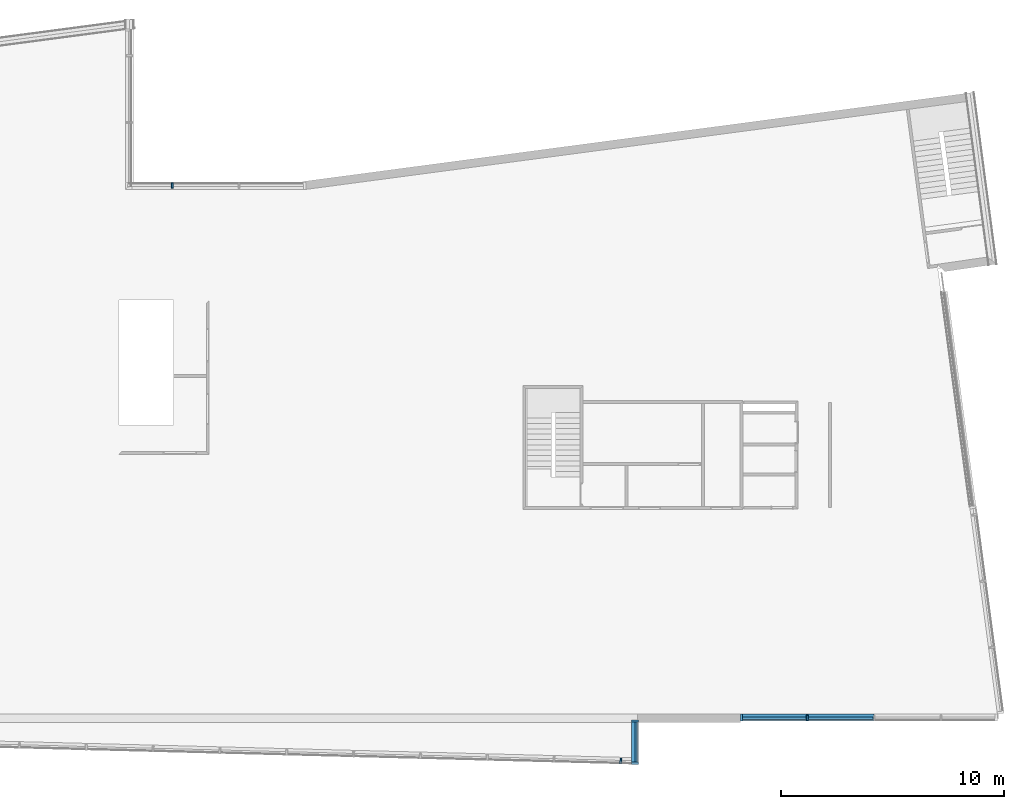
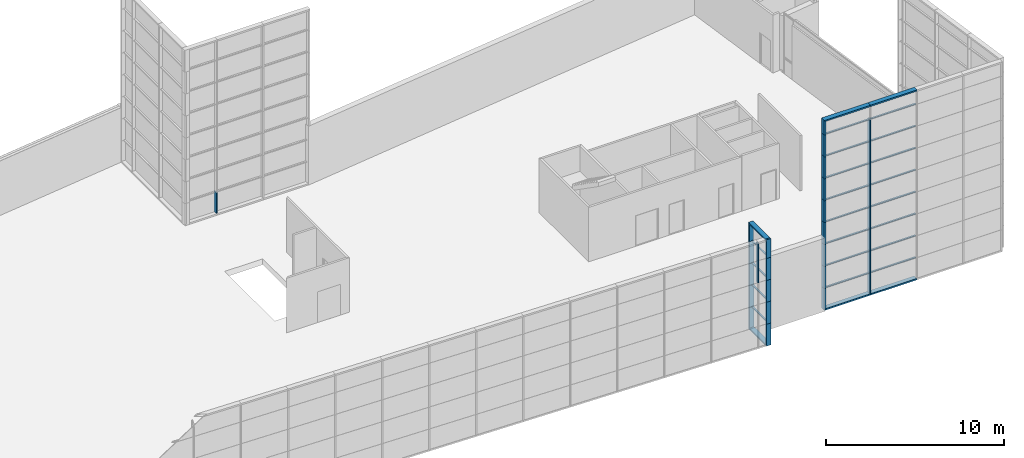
# One storey, part 7 of 27: 56 members, 4 elements without a shape of their own.
"""IFC2X3 building model written with IfcOpenShell, lengths in metres."""

from ifc_helpers import new_model, entity, si_unit, converted_unit, money_unit, direction, frame, origin_with_axes, place, context, subcontext, project, spatial, polyline, outline, extrude, clip, halfspace, material, type_object, element, aggregate, save


model = new_model("IFC2X3")

# Units and contexts
model_context = context("Model", 3, precision=1e-05, world=origin_with_axes(), true_north=direction((0.0, 1.0)))
body_context = subcontext(model_context, "Body", "Model", "MODEL_VIEW")
ifc_project = project(units=[si_unit("LENGTHUNIT", "METRE"), si_unit("AREAUNIT", "SQUARE_METRE"), si_unit("VOLUMEUNIT", "CUBIC_METRE"), converted_unit("PLANEANGLEUNIT", "DEGREE", entity("IfcPlaneAngleMeasure", 0.0174532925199), si_unit("PLANEANGLEUNIT", "RADIAN"), dimensions=[0, 0, 0, 0, 0, 0, 0]), si_unit("SOLIDANGLEUNIT", "STERADIAN"), money_unit("EUR"), converted_unit("TIMEUNIT", "Year", entity("IfcTimeMeasure", 31556926.0), si_unit("TIMEUNIT", "SECOND"), dimensions=[0, 0, 0, 0, 0, 0, 0]), si_unit("MASSUNIT", "GRAM"), si_unit("THERMODYNAMICTEMPERATUREUNIT", "DEGREE_CELSIUS"), si_unit("LUMINOUSINTENSITYUNIT", "LUMEN")], contexts=[model_context])

# Site, building, storey
site_placement = place(None, origin_with_axes())
site = spatial("IfcSite", under=ifc_project, at=site_placement, Name="Undefined", CompositionType="ELEMENT")
building_placement = place(site_placement, origin_with_axes())
building = spatial("IfcBuilding", under=site, at=building_placement, Name="Undefined", CompositionType="ELEMENT")
storey_placement = place(building_placement, frame((0.0, 0.0, 5.4), z_axis=(0.0, 0.0, 1.0), x_axis=(1.0, 0.0, 0.0)))
storey = spatial("IfcBuildingStorey", under=building, at=storey_placement, Name="R+1", CompositionType="ELEMENT", Elevation=5.4)

# Curtain wall, members
curtain_wall_type = type_object("IfcCurtainWallType", Name="Type de mur-rideau", PredefinedType="NOTDEFINED")
curtain_wall_1_placement = place(storey_placement, frame((52.2244318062, -1.23226876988, -0.55), z_axis=(0.0, 0.0, 1.0), x_axis=(1.0, 0.0, 0.0)))
curtain_wall_1 = element("IfcCurtainWall", 1, at=curtain_wall_1_placement, inside=storey, type_object=curtain_wall_type, Name="CurtainWall_01", ObjectType="CURTAIN WALL")
ifc_material = material(Name="25 % 359672764")
member_type_1 = type_object("IfcMemberType", Name="Cadre 100 x 300", PredefinedType="NOTDEFINED")
member_1_placement = place(curtain_wall_1_placement, frame((9.76007754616e-08, 0.975691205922, 4.5), z_axis=(0.0, 0.0, 1.0), x_axis=(-1.00032442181e-07, -1.0, 0.0)))
member_1 = element("IfcMember", 2, at=member_1_placement, type_object=member_type_1, material=ifc_material, Name="Frame-Bnd-565", context=body_context, shape_type="SweptSolid", body=[
    extrude(outline(polyline([(-0.250000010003, -0.0999999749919), (0.0499999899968, -0.100000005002), (0.05, -5.00162211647e-09), (-0.25, 2.50081105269e-08), (-0.250000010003, -0.0999999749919)])), frame((0.0, 0.0, 0.0), z_axis=(0.0, 0.0, 1.0), x_axis=(-1.00032442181e-07, 1.0, 0.0)), (0.0, 0.0, 1.0), 1.5),
])
member_2_placement = place(curtain_wall_1_placement, frame((9.76007754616e-08, 0.975691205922, 3.0), z_axis=(0.0, 0.0, 1.0), x_axis=(-1.00032442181e-07, -1.0, 0.0)))
member_2 = element("IfcMember", 3, at=member_2_placement, type_object=member_type_1, material=ifc_material, Name="Frame-Bnd-565", context=body_context, shape_type="SweptSolid", body=[
    extrude(outline(polyline([(-0.250000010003, -0.0999999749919), (0.0499999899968, -0.100000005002), (0.05, -5.00162211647e-09), (-0.25, 2.50081105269e-08), (-0.250000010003, -0.0999999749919)])), frame((0.0, 0.0, 0.0), z_axis=(0.0, 0.0, 1.0), x_axis=(-1.00032442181e-07, 1.0, 0.0)), (0.0, 0.0, 1.0), 1.5),
])
member_3_placement = place(curtain_wall_1_placement, frame((9.76007754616e-08, 0.975691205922, 1.5), z_axis=(0.0, 0.0, 1.0), x_axis=(-1.00032442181e-07, -1.0, 0.0)))
member_3 = element("IfcMember", 4, at=member_3_placement, type_object=member_type_1, material=ifc_material, Name="Frame-Bnd-565", context=body_context, shape_type="SweptSolid", body=[
    extrude(outline(polyline([(-0.250000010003, -0.0999999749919), (0.0499999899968, -0.100000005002), (0.05, -5.00162211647e-09), (-0.25, 2.50081105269e-08), (-0.250000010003, -0.0999999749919)])), frame((0.0, 0.0, 0.0), z_axis=(0.0, 0.0, 1.0), x_axis=(-1.00032442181e-07, 1.0, 0.0)), (0.0, 0.0, 1.0), 1.5),
])
member_4_placement = place(curtain_wall_1_placement, frame((9.76007754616e-08, 0.975691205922, 0.0), z_axis=(0.0, 0.0, 1.0), x_axis=(-1.00032442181e-07, -1.0, 0.0)))
member_4 = element("IfcMember", 5, at=member_4_placement, type_object=member_type_1, material=ifc_material, Name="Frame-Bnd-565", context=body_context, shape_type="Clipping", body=[
    clip(extrude(outline(polyline([(-0.250000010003, -0.0999999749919), (0.0499999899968, -0.100000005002), (0.05, -5.00162211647e-09), (-0.25, 2.50081105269e-08), (-0.250000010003, -0.0999999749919)])), frame((0.0, 0.0, 0.0), z_axis=(0.0, 0.0, 1.0), x_axis=(-1.00032442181e-07, 1.0, 0.0)), (0.0, 0.0, 1.0), 1.5), halfspace(frame((0.0, 0.0, 0.0), z_axis=(-0.707106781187, 0.0, 0.707106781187), x_axis=(0.0, -1.0, 0.0)), True)),
])
member_5_placement = place(curtain_wall_1_placement, frame((-9.76007754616e-08, -0.975691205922, 0.0), z_axis=(1.00032443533e-07, 1.0, 0.0), x_axis=(0.0, 0.0, 1.0)))
member_5 = element("IfcMember", 6, at=member_5_placement, type_object=member_type_1, material=ifc_material, Name="Frame-Bnd-565", context=body_context, shape_type="Clipping", body=[
    clip(extrude(outline(polyline([(-0.25, -0.1), (0.05, -0.1), (0.05, 0.0), (-0.25, 0.0), (-0.25, -0.1)])), frame((0.0, 0.0, 0.05), z_axis=(0.0, 0.0, 1.0), x_axis=(0.0, 1.0, 0.0)), (0.0, 0.0, 1.0), 1.90138241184), halfspace(frame((0.975691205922, 0.0, 0.975691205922), z_axis=(-0.707106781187, 0.0, -0.707106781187), x_axis=(0.0, 1.0, 0.0)), True)),
])
member_6_placement = place(curtain_wall_1_placement, frame((9.76007754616e-08, 0.975691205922, 6.0), z_axis=(0.0, -6.56820518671e-08, 1.0), x_axis=(-1.00032442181e-07, -1.0, -6.56820518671e-08)))
member_6 = element("IfcMember", 7, at=member_6_placement, type_object=member_type_1, material=ifc_material, Name="Frame-Bnd-623", context=body_context, shape_type="Clipping", body=[
    clip(extrude(outline(polyline([(-0.250000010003, -0.0999999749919), (0.0499999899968, -0.100000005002), (0.05, -5.00162211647e-09), (-0.25, 2.50081105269e-08), (-0.250000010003, -0.0999999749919)])), frame((0.0, 0.0, 0.0), z_axis=(0.0, 0.0, 1.0), x_axis=(-1.00032442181e-07, 1.0, 0.0)), (0.0, 0.0, 1.0), 1.275), halfspace(frame((0.6375, 0.0, 0.637500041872), z_axis=(-0.707106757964, 0.0, -0.707106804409), x_axis=(0.0, 1.0, 0.0)), True)),
])
member_7_placement = place(curtain_wall_1_placement, frame((9.76007612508e-08, 0.975691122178, 7.275), z_axis=(-1.00032440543e-07, -1.0, 0.0), x_axis=(0.0, 0.0, -1.0)))
member_7 = element("IfcMember", 8, at=member_7_placement, type_object=member_type_1, material=ifc_material, Name="Frame-Bnd-666", context=body_context, shape_type="Clipping", body=[
    clip(extrude(outline(polyline([(0.25, 0.1), (-0.05, 0.1), (-0.05, 0.0), (0.25, 0.0), (0.25, 0.1)])), frame((0.0, 0.0, 0.0), z_axis=(0.0, 0.0, 1.0), x_axis=(0.0, -1.0, 0.0)), (0.0, 0.0, 1.0), 1.9013823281), halfspace(frame((0.0, 0.0, 0.0), z_axis=(-0.707106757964, 0.0, 0.707106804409), x_axis=(0.0, -1.0, 0.0)), True)),
])

curtain_wall_2_placement = place(storey_placement, frame((58.35, -0.25, -1.0), z_axis=(0.0, 0.0, 1.0), x_axis=(1.0, 0.0, 0.0)))
curtain_wall_2 = element("IfcCurtainWall", 9, at=curtain_wall_2_placement, inside=storey, type_object=curtain_wall_type, Name="CurtainWall_01", ObjectType="CURTAIN WALL")
member_8_placement = place(curtain_wall_2_placement, frame((-1.5, 0.0, 0.0), z_axis=(1.0, 0.0, 0.0), x_axis=(0.0, 0.0, 1.0)))
member_8 = element("IfcMember", 10, at=member_8_placement, type_object=member_type_1, material=ifc_material, Name="Frame-Bnd-832", context=body_context, shape_type="Clipping", body=[
    clip(extrude(outline(polyline([(-0.25, -0.1), (0.05, -0.1), (0.05, 0.0), (-0.25, 0.0), (-0.25, -0.1)])), frame((0.0, 0.0, 0.0), z_axis=(0.0, 0.0, 1.0), x_axis=(0.0, 1.0, 0.0)), (0.0, 0.0, 1.0), 3.0), halfspace(frame((0.0, 0.0, 0.0), z_axis=(-0.707106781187, 0.0, 0.707106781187), x_axis=(0.0, -1.0, 0.0)), True)),
])
member_9_placement = place(curtain_wall_2_placement, frame((-1.5, 0.0, 0.0), z_axis=(0.0, 0.0, 1.0), x_axis=(-1.0, 0.0, 0.0)))
member_9 = element("IfcMember", 11, at=member_9_placement, type_object=member_type_1, material=ifc_material, Name="Frame-Bnd-832", context=body_context, shape_type="Clipping", body=[
    clip(extrude(outline(polyline([(0.0, 0.25), (0.0, -0.05), (0.1, -0.05), (0.1, 0.25), (0.0, 0.25)])), frame((0.0, 0.0, 0.0), z_axis=(0.0, 0.0, 1.0), x_axis=(-1.0, 0.0, 0.0)), (0.0, 0.0, 1.0), 1.5), halfspace(frame((0.0, 0.0, 0.0), z_axis=(0.707106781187, 0.0, 0.707106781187), x_axis=(0.0, -1.0, 0.0)), True)),
])
member_10_placement = place(curtain_wall_2_placement, frame((1.5, 0.0, 0.0), z_axis=(1.0, 0.0, 0.0), x_axis=(0.0, 0.0, 1.0)))
member_10 = element("IfcMember", 12, at=member_10_placement, type_object=member_type_1, material=ifc_material, Name="Frame-Bnd-832", context=body_context, shape_type="SweptSolid", body=[
    extrude(outline(polyline([(-0.25, -0.1), (0.05, -0.1), (0.05, 0.0), (-0.25, 0.0), (-0.25, -0.1)])), frame((0.0, 0.0, 0.0), z_axis=(0.0, 0.0, 1.0), x_axis=(0.0, 1.0, 0.0)), (0.0, 0.0, 1.0), 3.0),
])
member_11_placement = place(curtain_wall_2_placement, frame((-1.5, 0.0, 1.5), z_axis=(0.0, 0.0, 1.0), x_axis=(-1.0, 0.0, 0.0)))
member_11 = element("IfcMember", 13, at=member_11_placement, type_object=member_type_1, material=ifc_material, Name="Frame-Bnd-832", context=body_context, shape_type="SweptSolid", body=[
    extrude(outline(polyline([(0.0, 0.25), (0.0, -0.05), (0.1, -0.05), (0.1, 0.25), (0.0, 0.25)])), frame((0.0, 0.0, 0.0), z_axis=(0.0, 0.0, 1.0), x_axis=(-1.0, 0.0, 0.0)), (0.0, 0.0, 1.0), 1.5),
])
member_12_placement = place(curtain_wall_2_placement, frame((-1.5, 0.0, 3.0), z_axis=(0.0, 0.0, 1.0), x_axis=(-1.0, 0.0, 0.0)))
member_12 = element("IfcMember", 14, at=member_12_placement, type_object=member_type_1, material=ifc_material, Name="Frame-Bnd-832", context=body_context, shape_type="SweptSolid", body=[
    extrude(outline(polyline([(0.0, 0.25), (0.0, -0.05), (0.1, -0.05), (0.1, 0.25), (0.0, 0.25)])), frame((0.0, 0.0, 0.0), z_axis=(0.0, 0.0, 1.0), x_axis=(-1.0, 0.0, 0.0)), (0.0, 0.0, 1.0), 1.5),
])
member_13_placement = place(curtain_wall_2_placement, frame((-1.5, 0.0, 4.5), z_axis=(0.0, 0.0, 1.0), x_axis=(-1.0, 0.0, 0.0)))
member_13 = element("IfcMember", 15, at=member_13_placement, type_object=member_type_1, material=ifc_material, Name="Frame-Bnd-832", context=body_context, shape_type="SweptSolid", body=[
    extrude(outline(polyline([(0.0, 0.25), (0.0, -0.05), (0.1, -0.05), (0.1, 0.25), (0.0, 0.25)])), frame((0.0, 0.0, 0.0), z_axis=(0.0, 0.0, 1.0), x_axis=(-1.0, 0.0, 0.0)), (0.0, 0.0, 1.0), 1.5),
])
member_14_placement = place(curtain_wall_2_placement, frame((-1.5, 0.0, 6.0), z_axis=(0.0, 0.0, 1.0), x_axis=(-1.0, 0.0, 0.0)))
member_14 = element("IfcMember", 16, at=member_14_placement, type_object=member_type_1, material=ifc_material, Name="Frame-Bnd-832", context=body_context, shape_type="SweptSolid", body=[
    extrude(outline(polyline([(0.0, 0.25), (0.0, -0.05), (0.1, -0.05), (0.1, 0.25), (0.0, 0.25)])), frame((0.0, 0.0, 0.0), z_axis=(0.0, 0.0, 1.0), x_axis=(-1.0, 0.0, 0.0)), (0.0, 0.0, 1.0), 1.5),
])
member_15_placement = place(curtain_wall_2_placement, frame((-1.5, 0.0, 7.5), z_axis=(0.0, 0.0, 1.0), x_axis=(-1.0, 0.0, 0.0)))
member_15 = element("IfcMember", 17, at=member_15_placement, type_object=member_type_1, material=ifc_material, Name="Frame-Bnd-832", context=body_context, shape_type="SweptSolid", body=[
    extrude(outline(polyline([(0.0, 0.25), (0.0, -0.05), (0.1, -0.05), (0.1, 0.25), (0.0, 0.25)])), frame((0.0, 0.0, 0.0), z_axis=(0.0, 0.0, 1.0), x_axis=(-1.0, 0.0, 0.0)), (0.0, 0.0, 1.0), 1.5),
])
member_16_placement = place(curtain_wall_2_placement, frame((-1.5, 0.0, 9.0), z_axis=(0.0, 0.0, 1.0), x_axis=(-1.0, 0.0, 0.0)))
member_16 = element("IfcMember", 18, at=member_16_placement, type_object=member_type_1, material=ifc_material, Name="Frame-Bnd-832", context=body_context, shape_type="SweptSolid", body=[
    extrude(outline(polyline([(0.0, 0.25), (0.0, -0.05), (0.1, -0.05), (0.1, 0.25), (0.0, 0.25)])), frame((0.0, 0.0, 0.0), z_axis=(0.0, 0.0, 1.0), x_axis=(-1.0, 0.0, 0.0)), (0.0, 0.0, 1.0), 1.5),
])
member_17_placement = place(curtain_wall_2_placement, frame((-1.5, 0.0, 10.5), z_axis=(0.0, 0.0, 1.0), x_axis=(-1.0, 0.0, 0.0)))
member_17 = element("IfcMember", 19, at=member_17_placement, type_object=member_type_1, material=ifc_material, Name="Frame-Bnd-832", context=body_context, shape_type="SweptSolid", body=[
    extrude(outline(polyline([(0.0, 0.25), (0.0, -0.05), (0.1, -0.05), (0.1, 0.25), (0.0, 0.25)])), frame((0.0, 0.0, 0.0), z_axis=(0.0, 0.0, 1.0), x_axis=(-1.0, 0.0, 0.0)), (0.0, 0.0, 1.0), 1.5),
])
member_18_placement = place(curtain_wall_2_placement, frame((-1.5, 0.0, 12.0), z_axis=(0.0, 0.0, 1.0), x_axis=(-1.0, 0.0, 0.0)))
member_18 = element("IfcMember", 20, at=member_18_placement, type_object=member_type_1, material=ifc_material, Name="Frame-Bnd-903", context=body_context, shape_type="Clipping", body=[
    clip(extrude(outline(polyline([(0.0, 0.25), (0.0, -0.05), (0.1, -0.05), (0.1, 0.25), (0.0, 0.25)])), frame((0.0, 0.0, 0.0), z_axis=(0.0, 0.0, 1.0), x_axis=(-1.0, 0.0, 0.0)), (0.0, 0.0, 1.0), 1.00000002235), halfspace(frame((-0.500000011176, 0.0, 0.500000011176), z_axis=(0.707106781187, 0.0, -0.707106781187), x_axis=(0.0, 1.0, 0.0)), True)),
])
member_19_placement = place(curtain_wall_2_placement, frame((1.5, 0.0, 13.0000000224), z_axis=(-1.0, 0.0, 0.0), x_axis=(0.0, 0.0, -1.0)))
member_19 = element("IfcMember", 21, at=member_19_placement, type_object=member_type_1, material=ifc_material, Name="Frame-Bnd-904", context=body_context, shape_type="Clipping", body=[
    clip(extrude(outline(polyline([(0.25, 0.1), (-0.05, 0.1), (-0.05, 0.0), (0.25, 0.0), (0.25, 0.1)])), frame((0.0, 0.0, 0.0), z_axis=(0.0, 0.0, 1.0), x_axis=(0.0, -1.0, 0.0)), (0.0, 0.0, 1.0), 3.0), halfspace(frame((1.5, 0.0, 1.5), z_axis=(-0.707106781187, 0.0, -0.707106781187), x_axis=(0.0, 1.0, 0.0)), True)),
])
member_20_placement = place(curtain_wall_2_placement, frame((4.5, 0.0, 13.0000000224), z_axis=(-1.0, 0.0, 0.0), x_axis=(0.0, 0.0, -1.0)))
member_20 = element("IfcMember", 22, at=member_20_placement, type_object=member_type_1, material=ifc_material, Name="Frame-Bnd-905", context=body_context, shape_type="SweptSolid", body=[
    extrude(outline(polyline([(0.25, 0.1), (-0.05, 0.1), (-0.05, 0.0), (0.25, 0.0), (0.25, 0.1)])), frame((0.0, 0.0, 0.0), z_axis=(0.0, 0.0, 1.0), x_axis=(0.0, -1.0, 0.0)), (0.0, 0.0, 1.0), 3.0),
])
member_type_2 = type_object("IfcMemberType", Name="Montant 80 x 250", PredefinedType="NOTDEFINED")
member_21_placement = place(curtain_wall_2_placement, frame((1.5, 0.0, 0.0), z_axis=(0.0, 0.0, 1.0), x_axis=(-1.0, 0.0, 0.0)))
member_21 = element("IfcMember", 23, at=member_21_placement, type_object=member_type_2, material=ifc_material, Name="Frame-Mll-300", context=body_context, shape_type="SweptSolid", body=[
    extrude(outline(polyline([(-0.04, 0.2), (-0.04, -0.05), (0.04, -0.05), (0.04, 0.2), (-0.04, 0.2)])), frame((0.0, 0.0, 0.1), z_axis=(0.0, 0.0, 1.0), x_axis=(-1.0, 0.0, 0.0)), (0.0, 0.0, 1.0), 1.4),
])
member_22_placement = place(curtain_wall_2_placement, frame((1.5, 0.0, 1.5), z_axis=(0.0, 0.0, 1.0), x_axis=(-1.0, 0.0, 0.0)))
member_22 = element("IfcMember", 24, at=member_22_placement, type_object=member_type_2, material=ifc_material, Name="Frame-Mll-300", context=body_context, shape_type="SweptSolid", body=[
    extrude(outline(polyline([(-0.04, 0.2), (-0.04, -0.05), (0.04, -0.05), (0.04, 0.2), (-0.04, 0.2)])), frame((0.0, 0.0, 0.0), z_axis=(0.0, 0.0, 1.0), x_axis=(-1.0, 0.0, 0.0)), (0.0, 0.0, 1.0), 1.5),
])
member_23_placement = place(curtain_wall_2_placement, frame((1.5, 0.0, 3.0), z_axis=(0.0, 0.0, 1.0), x_axis=(-1.0, 0.0, 0.0)))
member_23 = element("IfcMember", 25, at=member_23_placement, type_object=member_type_2, material=ifc_material, Name="Frame-Mll-300", context=body_context, shape_type="SweptSolid", body=[
    extrude(outline(polyline([(-0.04, 0.2), (-0.04, -0.05), (0.04, -0.05), (0.04, 0.2), (-0.04, 0.2)])), frame((0.0, 0.0, 0.0), z_axis=(0.0, 0.0, 1.0), x_axis=(-1.0, 0.0, 0.0)), (0.0, 0.0, 1.0), 1.5),
])
member_24_placement = place(curtain_wall_2_placement, frame((1.5, 0.0, 4.5), z_axis=(0.0, 0.0, 1.0), x_axis=(-1.0, 0.0, 0.0)))
member_24 = element("IfcMember", 26, at=member_24_placement, type_object=member_type_2, material=ifc_material, Name="Frame-Mll-300", context=body_context, shape_type="SweptSolid", body=[
    extrude(outline(polyline([(-0.04, 0.2), (-0.04, -0.05), (0.04, -0.05), (0.04, 0.2), (-0.04, 0.2)])), frame((0.0, 0.0, 0.0), z_axis=(0.0, 0.0, 1.0), x_axis=(-1.0, 0.0, 0.0)), (0.0, 0.0, 1.0), 1.5),
])
member_25_placement = place(curtain_wall_2_placement, frame((1.5, 0.0, 6.0), z_axis=(0.0, 0.0, 1.0), x_axis=(-1.0, 0.0, 0.0)))
member_25 = element("IfcMember", 27, at=member_25_placement, type_object=member_type_2, material=ifc_material, Name="Frame-Mll-300", context=body_context, shape_type="SweptSolid", body=[
    extrude(outline(polyline([(-0.04, 0.2), (-0.04, -0.05), (0.04, -0.05), (0.04, 0.2), (-0.04, 0.2)])), frame((0.0, 0.0, 0.0), z_axis=(0.0, 0.0, 1.0), x_axis=(-1.0, 0.0, 0.0)), (0.0, 0.0, 1.0), 1.5),
])
member_26_placement = place(curtain_wall_2_placement, frame((1.5, 0.0, 7.5), z_axis=(0.0, 0.0, 1.0), x_axis=(-1.0, 0.0, 0.0)))
member_26 = element("IfcMember", 28, at=member_26_placement, type_object=member_type_2, material=ifc_material, Name="Frame-Mll-300", context=body_context, shape_type="SweptSolid", body=[
    extrude(outline(polyline([(-0.04, 0.2), (-0.04, -0.05), (0.04, -0.05), (0.04, 0.2), (-0.04, 0.2)])), frame((0.0, 0.0, 0.0), z_axis=(0.0, 0.0, 1.0), x_axis=(-1.0, 0.0, 0.0)), (0.0, 0.0, 1.0), 1.5),
])
member_27_placement = place(curtain_wall_2_placement, frame((1.5, 0.0, 9.0), z_axis=(0.0, 0.0, 1.0), x_axis=(-1.0, 0.0, 0.0)))
member_27 = element("IfcMember", 29, at=member_27_placement, type_object=member_type_2, material=ifc_material, Name="Frame-Mll-300", context=body_context, shape_type="SweptSolid", body=[
    extrude(outline(polyline([(-0.04, 0.2), (-0.04, -0.05), (0.04, -0.05), (0.04, 0.2), (-0.04, 0.2)])), frame((0.0, 0.0, 0.0), z_axis=(0.0, 0.0, 1.0), x_axis=(-1.0, 0.0, 0.0)), (0.0, 0.0, 1.0), 1.5),
])
member_28_placement = place(curtain_wall_2_placement, frame((1.5, 0.0, 10.5), z_axis=(0.0, 0.0, 1.0), x_axis=(-1.0, 0.0, 0.0)))
member_28 = element("IfcMember", 30, at=member_28_placement, type_object=member_type_2, material=ifc_material, Name="Frame-Mll-300", context=body_context, shape_type="SweptSolid", body=[
    extrude(outline(polyline([(-0.04, 0.2), (-0.04, -0.05), (0.04, -0.05), (0.04, 0.2), (-0.04, 0.2)])), frame((0.0, 0.0, 0.0), z_axis=(0.0, 0.0, 1.0), x_axis=(-1.0, 0.0, 0.0)), (0.0, 0.0, 1.0), 1.5),
])

# Curtain wall, member
curtain_wall_3_placement = place(storey_placement, frame((35.8499996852, 23.7940983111, 0.0), z_axis=(0.0, 0.0, 1.0), x_axis=(1.0, 0.0, 0.0)))
curtain_wall_3 = element("IfcCurtainWall", 31, at=curtain_wall_3_placement, inside=storey, type_object=curtain_wall_type, Name="CurtainWall_01", ObjectType="CURTAIN WALL")
member_29_placement = place(curtain_wall_3_placement, frame((-4.5, -5.66665926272e-06, 0.0), z_axis=(0.0, 0.0, 1.0), x_axis=(0.999999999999, 1.25925765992e-06, 0.0)))
member_29 = element("IfcMember", 32, at=member_29_placement, type_object=member_type_2, material=ifc_material, Name="Frame-Mll-415", context=body_context, shape_type="SweptSolid", body=[
    extrude(outline(polyline([(0.0400002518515, -0.19999994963), (0.0399999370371, 0.0500000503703), (-0.0400000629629, 0.0499999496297), (-0.0399997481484, -0.20000005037), (0.0400002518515, -0.19999994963)])), frame((0.0, 0.0, 0.1), z_axis=(0.0, 0.0, 1.0), x_axis=(0.999999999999, -1.25925765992e-06, 0.0)), (0.0, 0.0, 1.0), 1.4),
])
aggregate(curtain_wall_3, [member_29])

# Curtain wall, members
curtain_wall_4_placement = place(storey_placement, frame((10.9994920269, -1.13484133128, -0.55), z_axis=(0.0, 0.0, 1.0), x_axis=(1.0, 0.0, 0.0)))
curtain_wall_4 = element("IfcCurtainWall", 33, at=curtain_wall_4_placement, inside=storey, type_object=curtain_wall_type, Name="CurtainWall_01", ObjectType="CURTAIN WALL")
member_30_placement = place(curtain_wall_4_placement, frame((40.4862855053, -1.05389087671, 4.5), z_axis=(0.0, 0.0, 1.0), x_axis=(-0.999661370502, 0.0260219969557, 0.0)))
member_30 = element("IfcMember", 34, at=member_30_placement, type_object=member_type_2, material=ifc_material, Name="Frame-Mll-209", context=body_context, shape_type="SweptSolid", body=[
    extrude(outline(polyline([(-0.0347820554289, 0.200973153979), (-0.0412875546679, -0.0489421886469), (0.0386853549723, -0.0510239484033), (0.0451908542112, 0.198891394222), (-0.0347820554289, 0.200973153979)])), frame((0.0, 0.0, 0.0), z_axis=(0.0, 0.0, 1.0), x_axis=(-0.999661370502, -0.0260219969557, 0.0)), (0.0, 0.0, 1.0), 1.5),
])
member_31_placement = place(curtain_wall_4_placement, frame((40.4862855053, -1.05389087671, 6.0), z_axis=(0.0, 0.0, 1.0), x_axis=(-0.999661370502, 0.0260219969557, 0.0)))
member_31 = element("IfcMember", 35, at=member_31_placement, type_object=member_type_2, material=ifc_material, Name="Frame-Mll-209", context=body_context, shape_type="SweptSolid", body=[
    extrude(outline(polyline([(-0.0347820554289, 0.200973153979), (-0.0412875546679, -0.0489421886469), (0.0386853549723, -0.0510239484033), (0.0451908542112, 0.198891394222), (-0.0347820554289, 0.200973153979)])), frame((0.0, 0.0, 0.0), z_axis=(0.0, 0.0, 1.0), x_axis=(-0.999661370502, -0.0260219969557, 0.0)), (0.0, 0.0, 1.0), 1.17506830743),
])
aggregate(curtain_wall_4, [member_30, member_31])

# Member
member_type_3 = type_object("IfcMemberType", Name="Traverse 60 x 100", PredefinedType="NOTDEFINED")
member_32_placement = place(curtain_wall_1_placement, frame((-9.76007754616e-08, -0.975691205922, 6.0), z_axis=(1.00032443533e-07, 1.0, 0.0), x_axis=(0.0, 0.0, 1.0)))
member_32 = element("IfcMember", 36, at=member_32_placement, type_object=member_type_3, material=ifc_material, Name="Frame-Trs-487", context=body_context, shape_type="SweptSolid", body=[
    extrude(outline(polyline([(-0.11, -0.03), (-0.01, -0.03), (-0.01, 0.03), (-0.11, 0.03), (-0.11, -0.03)])), frame((0.0, 0.0, 0.05), z_axis=(0.0, 0.0, 1.0), x_axis=(0.0, 1.0, 0.0)), (0.0, 0.0, 1.0), 1.80138241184),
])

member_33_placement = place(curtain_wall_1_placement, frame((-9.76007754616e-08, -0.975691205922, 4.5), z_axis=(1.00032443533e-07, 1.0, 0.0), x_axis=(0.0, 0.0, 1.0)))
member_33 = element("IfcMember", 37, at=member_33_placement, type_object=member_type_3, material=ifc_material, Name="Frame-Trs-487", context=body_context, shape_type="SweptSolid", body=[
    extrude(outline(polyline([(-0.11, -0.03), (-0.01, -0.03), (-0.01, 0.03), (-0.11, 0.03), (-0.11, -0.03)])), frame((0.0, 0.0, 0.05), z_axis=(0.0, 0.0, 1.0), x_axis=(0.0, 1.0, 0.0)), (0.0, 0.0, 1.0), 1.80138241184),
])

member_34_placement = place(curtain_wall_1_placement, frame((-9.76007754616e-08, -0.975691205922, 3.0), z_axis=(1.00032443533e-07, 1.0, 0.0), x_axis=(0.0, 0.0, 1.0)))
member_34 = element("IfcMember", 38, at=member_34_placement, type_object=member_type_3, material=ifc_material, Name="Frame-Trs-487", context=body_context, shape_type="SweptSolid", body=[
    extrude(outline(polyline([(-0.11, -0.03), (-0.01, -0.03), (-0.01, 0.03), (-0.11, 0.03), (-0.11, -0.03)])), frame((0.0, 0.0, 0.05), z_axis=(0.0, 0.0, 1.0), x_axis=(0.0, 1.0, 0.0)), (0.0, 0.0, 1.0), 1.80138241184),
])

member_35_placement = place(curtain_wall_1_placement, frame((-9.76007754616e-08, -0.975691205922, 1.5), z_axis=(1.00032443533e-07, 1.0, 0.0), x_axis=(0.0, 0.0, 1.0)))
member_35 = element("IfcMember", 39, at=member_35_placement, type_object=member_type_3, material=ifc_material, Name="Frame-Trs-487", context=body_context, shape_type="SweptSolid", body=[
    extrude(outline(polyline([(-0.11, -0.03), (-0.01, -0.03), (-0.01, 0.03), (-0.11, 0.03), (-0.11, -0.03)])), frame((0.0, 0.0, 0.05), z_axis=(0.0, 0.0, 1.0), x_axis=(0.0, 1.0, 0.0)), (0.0, 0.0, 1.0), 1.80138241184),
])

member_36_placement = place(curtain_wall_2_placement, frame((-1.5, 0.0, 1.5), z_axis=(1.0, 0.0, 0.0), x_axis=(0.0, 0.0, 1.0)))
member_36 = element("IfcMember", 40, at=member_36_placement, type_object=member_type_3, material=ifc_material, Name="Frame-Trs-769", context=body_context, shape_type="SweptSolid", body=[
    extrude(outline(polyline([(-0.11, -0.03), (-0.01, -0.03), (-0.01, 0.03), (-0.11, 0.03), (-0.11, -0.03)])), frame((0.0, 0.0, 0.1), z_axis=(0.0, 0.0, 1.0), x_axis=(0.0, 1.0, 0.0)), (0.0, 0.0, 1.0), 2.86),
])

member_37_placement = place(curtain_wall_2_placement, frame((1.5, 0.0, 1.5), z_axis=(1.0, 0.0, 0.0), x_axis=(0.0, 0.0, 1.0)))
member_37 = element("IfcMember", 41, at=member_37_placement, type_object=member_type_3, material=ifc_material, Name="Frame-Trs-769", context=body_context, shape_type="SweptSolid", body=[
    extrude(outline(polyline([(-0.11, -0.03), (-0.01, -0.03), (-0.01, 0.03), (-0.11, 0.03), (-0.11, -0.03)])), frame((0.0, 0.0, 0.04), z_axis=(0.0, 0.0, 1.0), x_axis=(0.0, 1.0, 0.0)), (0.0, 0.0, 1.0), 2.92),
])

member_38_placement = place(curtain_wall_2_placement, frame((-1.5, 0.0, 3.0), z_axis=(1.0, 0.0, 0.0), x_axis=(0.0, 0.0, 1.0)))
member_38 = element("IfcMember", 42, at=member_38_placement, type_object=member_type_3, material=ifc_material, Name="Frame-Trs-769", context=body_context, shape_type="SweptSolid", body=[
    extrude(outline(polyline([(-0.11, -0.03), (-0.01, -0.03), (-0.01, 0.03), (-0.11, 0.03), (-0.11, -0.03)])), frame((0.0, 0.0, 0.1), z_axis=(0.0, 0.0, 1.0), x_axis=(0.0, 1.0, 0.0)), (0.0, 0.0, 1.0), 2.86),
])

member_39_placement = place(curtain_wall_2_placement, frame((1.5, 0.0, 3.0), z_axis=(1.0, 0.0, 0.0), x_axis=(0.0, 0.0, 1.0)))
member_39 = element("IfcMember", 43, at=member_39_placement, type_object=member_type_3, material=ifc_material, Name="Frame-Trs-769", context=body_context, shape_type="SweptSolid", body=[
    extrude(outline(polyline([(-0.11, -0.03), (-0.01, -0.03), (-0.01, 0.03), (-0.11, 0.03), (-0.11, -0.03)])), frame((0.0, 0.0, 0.04), z_axis=(0.0, 0.0, 1.0), x_axis=(0.0, 1.0, 0.0)), (0.0, 0.0, 1.0), 2.92),
])

member_40_placement = place(curtain_wall_2_placement, frame((-1.5, 0.0, 4.5), z_axis=(1.0, 0.0, 0.0), x_axis=(0.0, 0.0, 1.0)))
member_40 = element("IfcMember", 44, at=member_40_placement, type_object=member_type_3, material=ifc_material, Name="Frame-Trs-769", context=body_context, shape_type="SweptSolid", body=[
    extrude(outline(polyline([(-0.11, -0.03), (-0.01, -0.03), (-0.01, 0.03), (-0.11, 0.03), (-0.11, -0.03)])), frame((0.0, 0.0, 0.1), z_axis=(0.0, 0.0, 1.0), x_axis=(0.0, 1.0, 0.0)), (0.0, 0.0, 1.0), 2.86),
])

member_41_placement = place(curtain_wall_2_placement, frame((1.5, 0.0, 4.5), z_axis=(1.0, 0.0, 0.0), x_axis=(0.0, 0.0, 1.0)))
member_41 = element("IfcMember", 45, at=member_41_placement, type_object=member_type_3, material=ifc_material, Name="Frame-Trs-769", context=body_context, shape_type="SweptSolid", body=[
    extrude(outline(polyline([(-0.11, -0.03), (-0.01, -0.03), (-0.01, 0.03), (-0.11, 0.03), (-0.11, -0.03)])), frame((0.0, 0.0, 0.04), z_axis=(0.0, 0.0, 1.0), x_axis=(0.0, 1.0, 0.0)), (0.0, 0.0, 1.0), 2.92),
])

member_42_placement = place(curtain_wall_2_placement, frame((-1.5, 0.0, 6.0), z_axis=(1.0, 0.0, 0.0), x_axis=(0.0, 0.0, 1.0)))
member_42 = element("IfcMember", 46, at=member_42_placement, type_object=member_type_3, material=ifc_material, Name="Frame-Trs-769", context=body_context, shape_type="SweptSolid", body=[
    extrude(outline(polyline([(-0.11, -0.03), (-0.01, -0.03), (-0.01, 0.03), (-0.11, 0.03), (-0.11, -0.03)])), frame((0.0, 0.0, 0.1), z_axis=(0.0, 0.0, 1.0), x_axis=(0.0, 1.0, 0.0)), (0.0, 0.0, 1.0), 2.86),
])

member_43_placement = place(curtain_wall_2_placement, frame((1.5, 0.0, 6.0), z_axis=(1.0, 0.0, 0.0), x_axis=(0.0, 0.0, 1.0)))
member_43 = element("IfcMember", 47, at=member_43_placement, type_object=member_type_3, material=ifc_material, Name="Frame-Trs-769", context=body_context, shape_type="SweptSolid", body=[
    extrude(outline(polyline([(-0.11, -0.03), (-0.01, -0.03), (-0.01, 0.03), (-0.11, 0.03), (-0.11, -0.03)])), frame((0.0, 0.0, 0.04), z_axis=(0.0, 0.0, 1.0), x_axis=(0.0, 1.0, 0.0)), (0.0, 0.0, 1.0), 2.92),
])

member_44_placement = place(curtain_wall_2_placement, frame((-1.5, 0.0, 7.5), z_axis=(1.0, 0.0, 0.0), x_axis=(0.0, 0.0, 1.0)))
member_44 = element("IfcMember", 48, at=member_44_placement, type_object=member_type_3, material=ifc_material, Name="Frame-Trs-769", context=body_context, shape_type="SweptSolid", body=[
    extrude(outline(polyline([(-0.11, -0.03), (-0.01, -0.03), (-0.01, 0.03), (-0.11, 0.03), (-0.11, -0.03)])), frame((0.0, 0.0, 0.1), z_axis=(0.0, 0.0, 1.0), x_axis=(0.0, 1.0, 0.0)), (0.0, 0.0, 1.0), 2.86),
])

member_45_placement = place(curtain_wall_2_placement, frame((1.5, 0.0, 7.5), z_axis=(1.0, 0.0, 0.0), x_axis=(0.0, 0.0, 1.0)))
member_45 = element("IfcMember", 49, at=member_45_placement, type_object=member_type_3, material=ifc_material, Name="Frame-Trs-769", context=body_context, shape_type="SweptSolid", body=[
    extrude(outline(polyline([(-0.11, -0.03), (-0.01, -0.03), (-0.01, 0.03), (-0.11, 0.03), (-0.11, -0.03)])), frame((0.0, 0.0, 0.04), z_axis=(0.0, 0.0, 1.0), x_axis=(0.0, 1.0, 0.0)), (0.0, 0.0, 1.0), 2.92),
])

member_46_placement = place(curtain_wall_2_placement, frame((-1.5, 0.0, 9.0), z_axis=(1.0, 0.0, 0.0), x_axis=(0.0, 0.0, 1.0)))
member_46 = element("IfcMember", 50, at=member_46_placement, type_object=member_type_3, material=ifc_material, Name="Frame-Trs-769", context=body_context, shape_type="SweptSolid", body=[
    extrude(outline(polyline([(-0.11, -0.03), (-0.01, -0.03), (-0.01, 0.03), (-0.11, 0.03), (-0.11, -0.03)])), frame((0.0, 0.0, 0.1), z_axis=(0.0, 0.0, 1.0), x_axis=(0.0, 1.0, 0.0)), (0.0, 0.0, 1.0), 2.86),
])

member_47_placement = place(curtain_wall_2_placement, frame((1.5, 0.0, 9.0), z_axis=(1.0, 0.0, 0.0), x_axis=(0.0, 0.0, 1.0)))
member_47 = element("IfcMember", 51, at=member_47_placement, type_object=member_type_3, material=ifc_material, Name="Frame-Trs-769", context=body_context, shape_type="SweptSolid", body=[
    extrude(outline(polyline([(-0.11, -0.03), (-0.01, -0.03), (-0.01, 0.03), (-0.11, 0.03), (-0.11, -0.03)])), frame((0.0, 0.0, 0.04), z_axis=(0.0, 0.0, 1.0), x_axis=(0.0, 1.0, 0.0)), (0.0, 0.0, 1.0), 2.92),
])

member_48_placement = place(curtain_wall_2_placement, frame((-1.5, 0.0, 10.5), z_axis=(1.0, 0.0, 0.0), x_axis=(0.0, 0.0, 1.0)))
member_48 = element("IfcMember", 52, at=member_48_placement, type_object=member_type_3, material=ifc_material, Name="Frame-Trs-769", context=body_context, shape_type="SweptSolid", body=[
    extrude(outline(polyline([(-0.11, -0.03), (-0.01, -0.03), (-0.01, 0.03), (-0.11, 0.03), (-0.11, -0.03)])), frame((0.0, 0.0, 0.1), z_axis=(0.0, 0.0, 1.0), x_axis=(0.0, 1.0, 0.0)), (0.0, 0.0, 1.0), 2.86),
])

member_49_placement = place(curtain_wall_2_placement, frame((1.5, 0.0, 10.5), z_axis=(1.0, 0.0, 0.0), x_axis=(0.0, 0.0, 1.0)))
member_49 = element("IfcMember", 53, at=member_49_placement, type_object=member_type_3, material=ifc_material, Name="Frame-Trs-769", context=body_context, shape_type="SweptSolid", body=[
    extrude(outline(polyline([(-0.11, -0.03), (-0.01, -0.03), (-0.01, 0.03), (-0.11, 0.03), (-0.11, -0.03)])), frame((0.0, 0.0, 0.04), z_axis=(0.0, 0.0, 1.0), x_axis=(0.0, 1.0, 0.0)), (0.0, 0.0, 1.0), 2.92),
])

member_50_placement = place(curtain_wall_2_placement, frame((-1.5, 0.0, 12.0), z_axis=(1.0, 0.0, 0.0), x_axis=(0.0, 0.0, 1.0)))
member_50 = element("IfcMember", 54, at=member_50_placement, type_object=member_type_3, material=ifc_material, Name="Frame-Trs-783", context=body_context, shape_type="SweptSolid", body=[
    extrude(outline(polyline([(-0.11, -0.03), (-0.01, -0.03), (-0.01, 0.03), (-0.11, 0.03), (-0.11, -0.03)])), frame((0.0, 0.0, 0.1), z_axis=(0.0, 0.0, 1.0), x_axis=(0.0, 1.0, 0.0)), (0.0, 0.0, 1.0), 2.86),
])

member_51_placement = place(curtain_wall_2_placement, frame((1.5, 0.0, 12.0), z_axis=(1.0, 0.0, 0.0), x_axis=(0.0, 0.0, 1.0)))
member_51 = element("IfcMember", 55, at=member_51_placement, type_object=member_type_3, material=ifc_material, Name="Frame-Trs-783", context=body_context, shape_type="SweptSolid", body=[
    extrude(outline(polyline([(-0.11, -0.03), (-0.01, -0.03), (-0.01, 0.03), (-0.11, 0.03), (-0.11, -0.03)])), frame((0.0, 0.0, 0.04), z_axis=(0.0, 0.0, 1.0), x_axis=(0.0, 1.0, 0.0)), (0.0, 0.0, 1.0), 2.92),
])

aggregate(curtain_wall_2, [member_8, member_9, member_10, member_21, member_36, member_11, member_37, member_22, member_38, member_12, member_39, member_23, member_40, member_13, member_41, member_24, member_42, member_14, member_43, member_25, member_44, member_15, member_45, member_26, member_46, member_16, member_47, member_27, member_48, member_17, member_49, member_28, member_50, member_51, member_18, member_19, member_20])

member_type_4 = type_object("IfcMemberType", Name="Personnalis\x8e 100 x 300", PredefinedType="NOTDEFINED")
member_52_placement = place(curtain_wall_1_placement, frame((-9.76007754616e-08, -0.975691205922, 0.0), z_axis=(0.0, 0.0, 1.0), x_axis=(-1.00032442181e-07, -1.0, 0.0)))
member_52 = element("IfcMember", 56, at=member_52_placement, type_object=member_type_4, material=ifc_material, Name="Frame-Bnd-565", context=body_context, shape_type="SweptSolid", body=[
    extrude(outline(polyline([(-0.250000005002, -0.0499999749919), (0.0499999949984, -0.0500000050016), (0.0500000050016, 0.0499999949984), (-0.249999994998, 0.0500000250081), (-0.250000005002, -0.0499999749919)])), frame((0.0, 0.0, 0.0), z_axis=(0.0, 0.0, 1.0), x_axis=(-1.00032442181e-07, 1.0, 0.0)), (0.0, 0.0, 1.0), 1.5),
])

member_53_placement = place(curtain_wall_1_placement, frame((-9.76007754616e-08, -0.975691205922, 1.5), z_axis=(0.0, 0.0, 1.0), x_axis=(-1.00032442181e-07, -1.0, 0.0)))
member_53 = element("IfcMember", 57, at=member_53_placement, type_object=member_type_4, material=ifc_material, Name="Frame-Bnd-565", context=body_context, shape_type="SweptSolid", body=[
    extrude(outline(polyline([(-0.250000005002, -0.0499999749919), (0.0499999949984, -0.0500000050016), (0.0500000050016, 0.0499999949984), (-0.249999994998, 0.0500000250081), (-0.250000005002, -0.0499999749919)])), frame((0.0, 0.0, 0.0), z_axis=(0.0, 0.0, 1.0), x_axis=(-1.00032442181e-07, 1.0, 0.0)), (0.0, 0.0, 1.0), 1.5),
])

member_54_placement = place(curtain_wall_1_placement, frame((-9.76007754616e-08, -0.975691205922, 3.0), z_axis=(0.0, 0.0, 1.0), x_axis=(-1.00032442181e-07, -1.0, 0.0)))
member_54 = element("IfcMember", 58, at=member_54_placement, type_object=member_type_4, material=ifc_material, Name="Frame-Bnd-565", context=body_context, shape_type="SweptSolid", body=[
    extrude(outline(polyline([(-0.250000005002, -0.0499999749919), (0.0499999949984, -0.0500000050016), (0.0500000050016, 0.0499999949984), (-0.249999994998, 0.0500000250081), (-0.250000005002, -0.0499999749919)])), frame((0.0, 0.0, 0.0), z_axis=(0.0, 0.0, 1.0), x_axis=(-1.00032442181e-07, 1.0, 0.0)), (0.0, 0.0, 1.0), 1.5),
])

member_55_placement = place(curtain_wall_1_placement, frame((-9.76007754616e-08, -0.975691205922, 4.5), z_axis=(0.0, 0.0, 1.0), x_axis=(-1.00032442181e-07, -1.0, 0.0)))
member_55 = element("IfcMember", 59, at=member_55_placement, type_object=member_type_4, material=ifc_material, Name="Frame-Bnd-565", context=body_context, shape_type="SweptSolid", body=[
    extrude(outline(polyline([(-0.250000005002, -0.0499999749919), (0.0499999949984, -0.0500000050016), (0.0500000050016, 0.0499999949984), (-0.249999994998, 0.0500000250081), (-0.250000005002, -0.0499999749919)])), frame((0.0, 0.0, 0.0), z_axis=(0.0, 0.0, 1.0), x_axis=(-1.00032442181e-07, 1.0, 0.0)), (0.0, 0.0, 1.0), 1.5),
])

member_56_placement = place(curtain_wall_1_placement, frame((-9.76007754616e-08, -0.975691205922, 6.0), z_axis=(0.0, 0.0, 1.0), x_axis=(-1.00032442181e-07, -1.0, 0.0)))
member_56 = element("IfcMember", 60, at=member_56_placement, type_object=member_type_4, material=ifc_material, Name="Frame-Bnd-565", context=body_context, shape_type="SweptSolid", body=[
    extrude(outline(polyline([(-0.250000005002, -0.0499999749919), (0.0499999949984, -0.0500000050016), (0.0500000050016, 0.0499999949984), (-0.249999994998, 0.0500000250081), (-0.250000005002, -0.0499999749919)])), frame((0.0, 0.0, 0.0), z_axis=(0.0, 0.0, 1.0), x_axis=(-1.00032442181e-07, 1.0, 0.0)), (0.0, 0.0, 1.0), 1.275),
])

aggregate(curtain_wall_1, [member_52, member_53, member_54, member_55, member_32, member_1, member_33, member_2, member_34, member_3, member_35, member_4, member_5, member_56, member_6, member_7])

save(model, "model.ifc")
